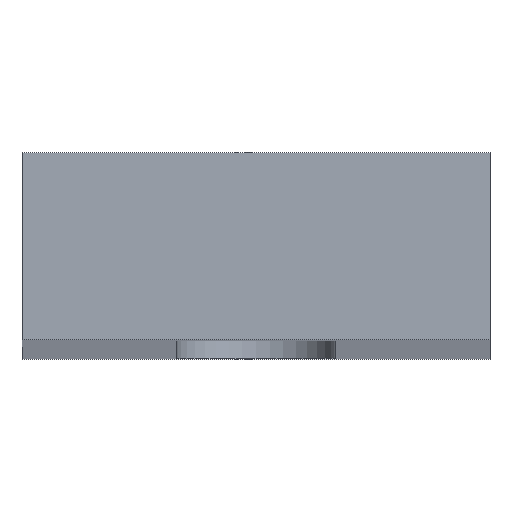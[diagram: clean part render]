
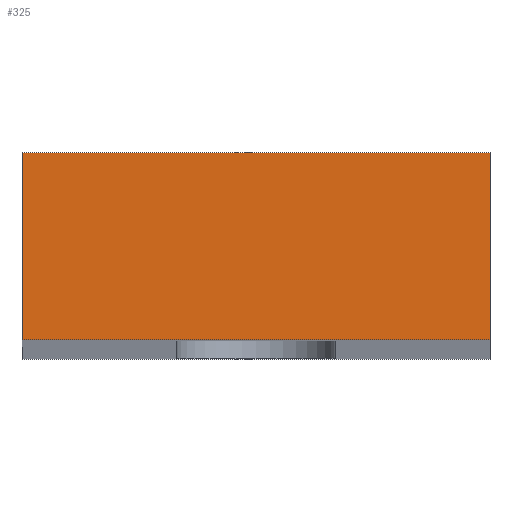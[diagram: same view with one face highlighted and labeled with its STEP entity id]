
A CAD part, top view. The second image highlights one B-rep face of the part: STEP entity #325.
In plain terms, the highlighted planar face has unit normal (0, 0, 1).
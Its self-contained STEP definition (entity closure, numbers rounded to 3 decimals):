
#24 = VERTEX_POINT('',#25);
#25 = CARTESIAN_POINT('',(35.,-22.,120.));
#32 = PLANE('',#33);
#33 = AXIS2_PLACEMENT_3D('',#34,#35,#36);
#34 = CARTESIAN_POINT('',(35.,-22.,-120.));
#35 = DIRECTION('',(1.,0.,0.));
#36 = DIRECTION('',(0.,0.,1.));
#44 = PLANE('',#45);
#45 = AXIS2_PLACEMENT_3D('',#46,#47,#48);
#46 = CARTESIAN_POINT('',(35.,-22.,-120.));
#47 = DIRECTION('',(0.,1.,0.));
#48 = DIRECTION('',(0.,0.,1.));
#85 = VERTEX_POINT('',#86);
#86 = CARTESIAN_POINT('',(35.,-18.,120.));
#100 = PLANE('',#101);
#101 = AXIS2_PLACEMENT_3D('',#102,#103,#104);
#102 = CARTESIAN_POINT('',(35.,-18.,-120.));
#103 = DIRECTION('',(0.,1.,0.));
#104 = DIRECTION('',(0.,0.,1.));
#112 = EDGE_CURVE('',#24,#85,#113,.T.);
#113 = SURFACE_CURVE('',#114,(#118,#125),.PCURVE_S1.);
#114 = LINE('',#115,#116);
#115 = CARTESIAN_POINT('',(35.,-22.,120.));
#116 = VECTOR('',#117,1.);
#117 = DIRECTION('',(0.,1.,0.));
#118 = PCURVE('',#32,#119);
#119 = DEFINITIONAL_REPRESENTATION('',(#120),#124);
#120 = LINE('',#121,#122);
#121 = CARTESIAN_POINT('',(240.,0.));
#122 = VECTOR('',#123,1.);
#123 = DIRECTION('',(0.,-1.));
#124 = ( GEOMETRIC_REPRESENTATION_CONTEXT(2) 
PARAMETRIC_REPRESENTATION_CONTEXT() REPRESENTATION_CONTEXT('2D SPACE',''
  ) );
#125 = PCURVE('',#126,#131);
#126 = PLANE('',#127);
#127 = AXIS2_PLACEMENT_3D('',#128,#129,#130);
#128 = CARTESIAN_POINT('',(35.,-22.,120.));
#129 = DIRECTION('',(0.,0.,1.));
#130 = DIRECTION('',(1.,0.,0.));
#131 = DEFINITIONAL_REPRESENTATION('',(#132),#136);
#132 = LINE('',#133,#134);
#133 = CARTESIAN_POINT('',(0.,0.));
#134 = VECTOR('',#135,1.);
#135 = DIRECTION('',(0.,1.));
#136 = ( GEOMETRIC_REPRESENTATION_CONTEXT(2) 
PARAMETRIC_REPRESENTATION_CONTEXT() REPRESENTATION_CONTEXT('2D SPACE',''
  ) );
#165 = EDGE_CURVE('',#24,#166,#168,.T.);
#166 = VERTEX_POINT('',#167);
#167 = CARTESIAN_POINT('',(45.,-22.,120.));
#168 = SURFACE_CURVE('',#169,(#173,#180),.PCURVE_S1.);
#169 = LINE('',#170,#171);
#170 = CARTESIAN_POINT('',(35.,-22.,120.));
#171 = VECTOR('',#172,1.);
#172 = DIRECTION('',(1.,0.,0.));
#173 = PCURVE('',#44,#174);
#174 = DEFINITIONAL_REPRESENTATION('',(#175),#179);
#175 = LINE('',#176,#177);
#176 = CARTESIAN_POINT('',(240.,0.));
#177 = VECTOR('',#178,1.);
#178 = DIRECTION('',(0.,1.));
#179 = ( GEOMETRIC_REPRESENTATION_CONTEXT(2) 
PARAMETRIC_REPRESENTATION_CONTEXT() REPRESENTATION_CONTEXT('2D SPACE',''
  ) );
#180 = PCURVE('',#126,#181);
#181 = DEFINITIONAL_REPRESENTATION('',(#182),#186);
#182 = LINE('',#183,#184);
#183 = CARTESIAN_POINT('',(0.,0.));
#184 = VECTOR('',#185,1.);
#185 = DIRECTION('',(1.,0.));
#186 = ( GEOMETRIC_REPRESENTATION_CONTEXT(2) 
PARAMETRIC_REPRESENTATION_CONTEXT() REPRESENTATION_CONTEXT('2D SPACE',''
  ) );
#202 = PLANE('',#203);
#203 = AXIS2_PLACEMENT_3D('',#204,#205,#206);
#204 = CARTESIAN_POINT('',(45.,-22.,-120.));
#205 = DIRECTION('',(1.,0.,0.));
#206 = DIRECTION('',(0.,0.,1.));
#325 = ADVANCED_FACE('',(#326),#126,.T.);
#326 = FACE_BOUND('',#327,.T.);
#327 = EDGE_LOOP('',(#328,#329,#330,#353));
#328 = ORIENTED_EDGE('',*,*,#112,.F.);
#329 = ORIENTED_EDGE('',*,*,#165,.T.);
#330 = ORIENTED_EDGE('',*,*,#331,.T.);
#331 = EDGE_CURVE('',#166,#332,#334,.T.);
#332 = VERTEX_POINT('',#333);
#333 = CARTESIAN_POINT('',(45.,-18.,120.));
#334 = SURFACE_CURVE('',#335,(#339,#346),.PCURVE_S1.);
#335 = LINE('',#336,#337);
#336 = CARTESIAN_POINT('',(45.,-22.,120.));
#337 = VECTOR('',#338,1.);
#338 = DIRECTION('',(0.,1.,0.));
#339 = PCURVE('',#126,#340);
#340 = DEFINITIONAL_REPRESENTATION('',(#341),#345);
#341 = LINE('',#342,#343);
#342 = CARTESIAN_POINT('',(10.,0.));
#343 = VECTOR('',#344,1.);
#344 = DIRECTION('',(0.,1.));
#345 = ( GEOMETRIC_REPRESENTATION_CONTEXT(2) 
PARAMETRIC_REPRESENTATION_CONTEXT() REPRESENTATION_CONTEXT('2D SPACE',''
  ) );
#346 = PCURVE('',#202,#347);
#347 = DEFINITIONAL_REPRESENTATION('',(#348),#352);
#348 = LINE('',#349,#350);
#349 = CARTESIAN_POINT('',(240.,0.));
#350 = VECTOR('',#351,1.);
#351 = DIRECTION('',(0.,-1.));
#352 = ( GEOMETRIC_REPRESENTATION_CONTEXT(2) 
PARAMETRIC_REPRESENTATION_CONTEXT() REPRESENTATION_CONTEXT('2D SPACE',''
  ) );
#353 = ORIENTED_EDGE('',*,*,#354,.F.);
#354 = EDGE_CURVE('',#85,#332,#355,.T.);
#355 = SURFACE_CURVE('',#356,(#360,#367),.PCURVE_S1.);
#356 = LINE('',#357,#358);
#357 = CARTESIAN_POINT('',(35.,-18.,120.));
#358 = VECTOR('',#359,1.);
#359 = DIRECTION('',(1.,0.,0.));
#360 = PCURVE('',#126,#361);
#361 = DEFINITIONAL_REPRESENTATION('',(#362),#366);
#362 = LINE('',#363,#364);
#363 = CARTESIAN_POINT('',(0.,4.));
#364 = VECTOR('',#365,1.);
#365 = DIRECTION('',(1.,0.));
#366 = ( GEOMETRIC_REPRESENTATION_CONTEXT(2) 
PARAMETRIC_REPRESENTATION_CONTEXT() REPRESENTATION_CONTEXT('2D SPACE',''
  ) );
#367 = PCURVE('',#100,#368);
#368 = DEFINITIONAL_REPRESENTATION('',(#369),#373);
#369 = LINE('',#370,#371);
#370 = CARTESIAN_POINT('',(240.,0.));
#371 = VECTOR('',#372,1.);
#372 = DIRECTION('',(0.,1.));
#373 = ( GEOMETRIC_REPRESENTATION_CONTEXT(2) 
PARAMETRIC_REPRESENTATION_CONTEXT() REPRESENTATION_CONTEXT('2D SPACE',''
  ) );
